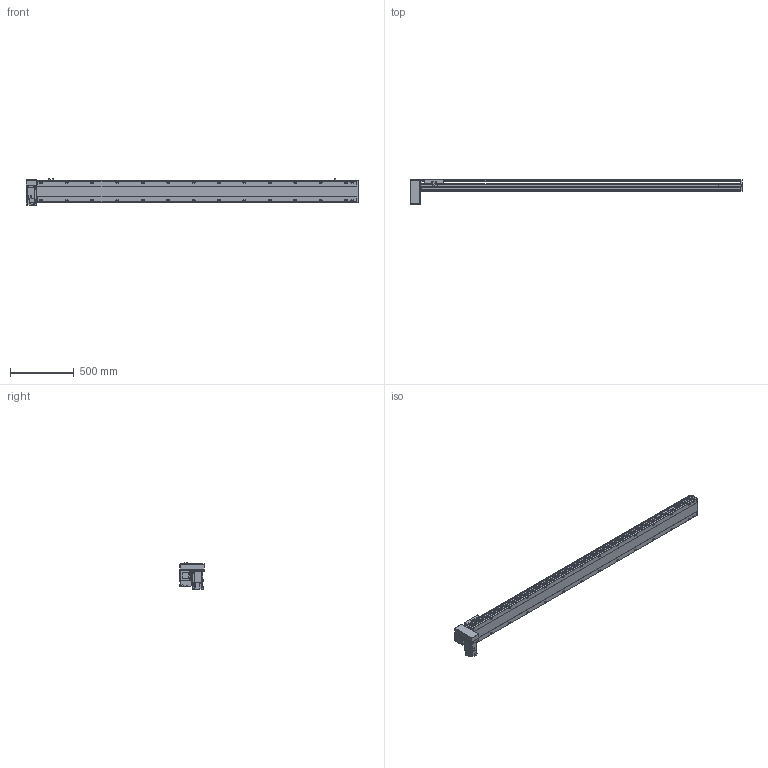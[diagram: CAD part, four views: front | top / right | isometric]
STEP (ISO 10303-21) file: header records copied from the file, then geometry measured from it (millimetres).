
FILE_DESCRIPTION(/* description */ ('STEP AP214'),/* implementation_level */ '2;1');
FILE_NAME(/* name */ 'PBS170-P40-S2250-RD-T75-C1-N(0)',/* time_stamp */ '2022-06-08T07:37:22+02:00',/* author */ ('License CC BY-ND 4.0'),/* organization */ ('CADENAS'),/* preprocessor_version */ 'ST-DEVELOPER v18.102',/* originating_system */ 'PARTsolutions',/* authorisation */ ' ');
FILE_SCHEMA (('AUTOMOTIVE_DESIGN {1 0 10303 214 3 1 1}'));
Length unit declared in the file: millimetre
Products named in the file (7): PBS170-P40-S2250-RD-T75-C1-N(0); PBS170_sensor; PBS170_plant; PBS170_sliser; T75-p1; PBS170T-RD_motors; PBS170-S2250()_body
Assembly tree (8 placements, depth 2):
  PBS170-P40-S2250-RD-T75-C1-N(0)
    PBS170_sensor  x3
    PBS170_plant
    PBS170_sliser
    T75-p1
    PBS170T-RD_motors
    PBS170-S2250()_body
Bounding box: 2613 x 201 x 205.3 mm (x, y, z)
Volume: 19894306.2 mm3; surface area: 2515826.5 mm2
Topology: 8 solids, 8 shells, 1178 faces, 3115 edges, 2030 vertices
Faces by surface type: plane 723, cylinder 387, cone 58, sphere 8, torus 2
Full cylindrical faces by diameter (mm): 3.242 x4, 4 x2, 4.4 x4, 4.5 x6, 4.917 x4, 6 x9, 6.647 x36, 7 x2, 7.5 x4, 8 x8, 8.5 x28, 10 x4, 10.5 x28, 11 x2, 30 x2, 40 x1, 70 x1
Entity records: 33866 total; most frequent: CARTESIAN_POINT 6385, DIRECTION 5720, ORIENTED_EDGE 5388, EDGE_CURVE 2694, AXIS2_PLACEMENT_3D 2017, VERTEX_POINT 1874, LINE 1686, VECTOR 1686
